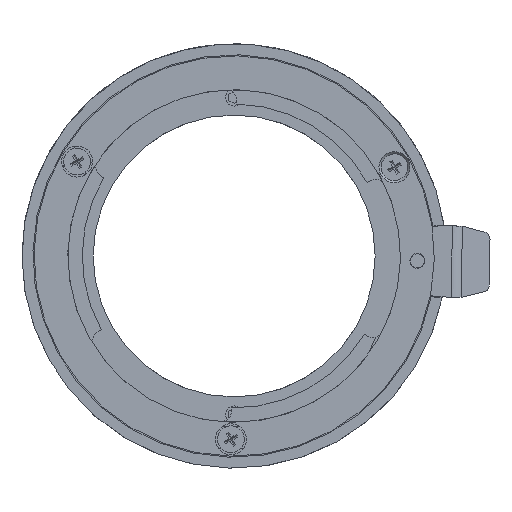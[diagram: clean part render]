
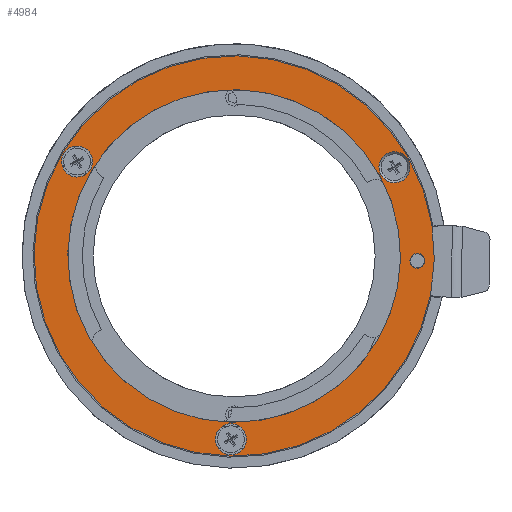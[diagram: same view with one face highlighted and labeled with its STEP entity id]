
A CAD part, left-side view. The second image highlights one B-rep face of the part: STEP entity #4984.
In plain terms, the highlighted planar face has unit normal (-1, 0, 0) as drawn and (1, 0, 0) by its records, which use the part's own axes.
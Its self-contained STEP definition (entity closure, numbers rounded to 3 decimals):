
#212=FACE_BOUND('',#955,.T.);
#213=FACE_BOUND('',#956,.T.);
#214=FACE_BOUND('',#957,.T.);
#215=FACE_BOUND('',#958,.T.);
#216=FACE_BOUND('',#959,.T.);
#358=CIRCLE('',#5372,23.6);
#376=CIRCLE('',#5399,1.05);
#384=CIRCLE('',#5416,2.2);
#387=CIRCLE('',#5421,2.2);
#390=CIRCLE('',#5426,2.2);
#393=CIRCLE('',#5431,28.4);
#654=FACE_OUTER_BOUND('',#954,.T.);
#954=EDGE_LOOP('',(#4067));
#955=EDGE_LOOP('',(#4068));
#956=EDGE_LOOP('',(#4069));
#957=EDGE_LOOP('',(#4070));
#958=EDGE_LOOP('',(#4071));
#959=EDGE_LOOP('',(#4072));
#2316=VERTEX_POINT('',#8173);
#2344=VERTEX_POINT('',#8248);
#2353=VERTEX_POINT('',#8284);
#2356=VERTEX_POINT('',#8294);
#2359=VERTEX_POINT('',#8304);
#2362=VERTEX_POINT('',#8314);
#2886=EDGE_CURVE('',#2316,#2316,#358,.T.);
#2924=EDGE_CURVE('',#2344,#2344,#376,.T.);
#2942=EDGE_CURVE('',#2353,#2353,#384,.T.);
#2947=EDGE_CURVE('',#2356,#2356,#387,.T.);
#2952=EDGE_CURVE('',#2359,#2359,#390,.T.);
#2957=EDGE_CURVE('',#2362,#2362,#393,.T.);
#4067=ORIENTED_EDGE('',*,*,#2957,.T.);
#4068=ORIENTED_EDGE('',*,*,#2924,.T.);
#4069=ORIENTED_EDGE('',*,*,#2942,.T.);
#4070=ORIENTED_EDGE('',*,*,#2947,.T.);
#4071=ORIENTED_EDGE('',*,*,#2952,.T.);
#4072=ORIENTED_EDGE('',*,*,#2886,.F.);
#4631=PLANE('',#5430);
#4984=ADVANCED_FACE('',(#654,#212,#213,#214,#215,#216),#4631,.T.);
#5372=AXIS2_PLACEMENT_3D('',#8174,#6238,#6239);
#5399=AXIS2_PLACEMENT_3D('',#8249,#6312,#6313);
#5416=AXIS2_PLACEMENT_3D('',#8285,#6356,#6357);
#5421=AXIS2_PLACEMENT_3D('',#8295,#6368,#6369);
#5426=AXIS2_PLACEMENT_3D('',#8305,#6380,#6381);
#5430=AXIS2_PLACEMENT_3D('',#8313,#6390,#6391);
#5431=AXIS2_PLACEMENT_3D('',#8315,#6392,#6393);
#6238=DIRECTION('center_axis',(1.,0.,0.));
#6239=DIRECTION('ref_axis',(0.,1.,0.));
#6312=DIRECTION('center_axis',(-1.,0.,0.));
#6313=DIRECTION('ref_axis',(0.,0.,-1.));
#6356=DIRECTION('center_axis',(-1.,0.,0.));
#6357=DIRECTION('ref_axis',(0.,0.866,0.5));
#6368=DIRECTION('center_axis',(-1.,0.,0.));
#6369=DIRECTION('ref_axis',(0.,-0.866,0.5));
#6380=DIRECTION('center_axis',(-1.,0.,0.));
#6381=DIRECTION('ref_axis',(0.,0.,-1.));
#6390=DIRECTION('center_axis',(1.,0.,0.));
#6391=DIRECTION('ref_axis',(0.,0.,-1.));
#6392=DIRECTION('center_axis',(1.,0.,0.));
#6393=DIRECTION('ref_axis',(0.,1.,0.));
#8173=CARTESIAN_POINT('',(-0.25,-23.6,0.));
#8174=CARTESIAN_POINT('Origin',(-0.25,0.,0.));
#8248=CARTESIAN_POINT('',(-0.25,22.402,-12.146));
#8249=CARTESIAN_POINT('Origin',(-0.25,22.402,-13.196));
#8284=CARTESIAN_POINT('',(-0.25,-14.905,21.417));
#8285=CARTESIAN_POINT('Origin',(-0.25,-13.,22.517));
#8294=CARTESIAN_POINT('',(-0.25,-11.095,-23.617));
#8295=CARTESIAN_POINT('Origin',(-0.25,-13.,-22.517));
#8304=CARTESIAN_POINT('',(-0.25,26.,2.2));
#8305=CARTESIAN_POINT('Origin',(-0.25,26.,0.));
#8313=CARTESIAN_POINT('Origin',(-0.25,26.,0.));
#8314=CARTESIAN_POINT('',(-0.25,-28.4,0.));
#8315=CARTESIAN_POINT('Origin',(-0.25,0.,0.));
